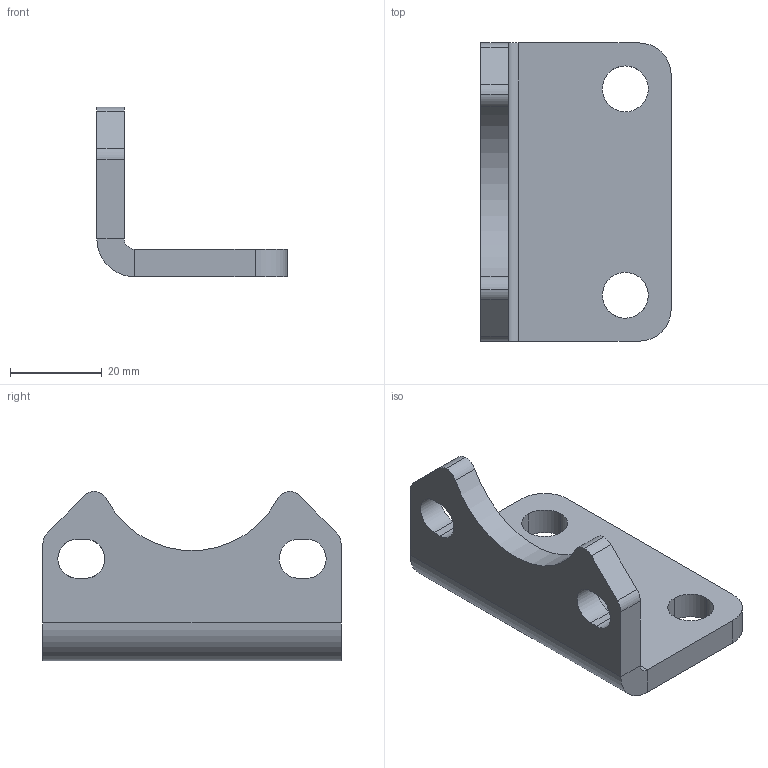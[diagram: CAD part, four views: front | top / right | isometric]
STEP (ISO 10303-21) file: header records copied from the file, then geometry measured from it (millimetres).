
FILE_DESCRIPTION(('CATIA V5 STEP Exchange'),'2;1');
FILE_NAME('D:\stp file for catalog\BAST-LB\LB 50.stp','2018-06-13T05:25:00+00:00',('none'),('none'),'CATIA Version 5-6 Release 2016','CATIA V5 STEP AP203','none');
FILE_SCHEMA(('CONFIG_CONTROL_DESIGN'));
Length unit declared in the file: millimetre
Products named in the file (1): LB-50-00
Bounding box: 41.5 x 65 x 36.98 mm (x, y, z)
Volume: 22656.9 mm3; surface area: 9863 mm2
Topology: 1 solids, 1 shells, 40 faces, 106 edges, 68 vertices
Faces by surface type: cylinder 23, plane 17
Entity records: 1273 total; most frequent: CARTESIAN_POINT 249, ORIENTED_EDGE 212, DIRECTION 174, EDGE_CURVE 106, AXIS2_PLACEMENT_3D 79, VERTEX_POINT 68, VECTOR 60, LINE 60
